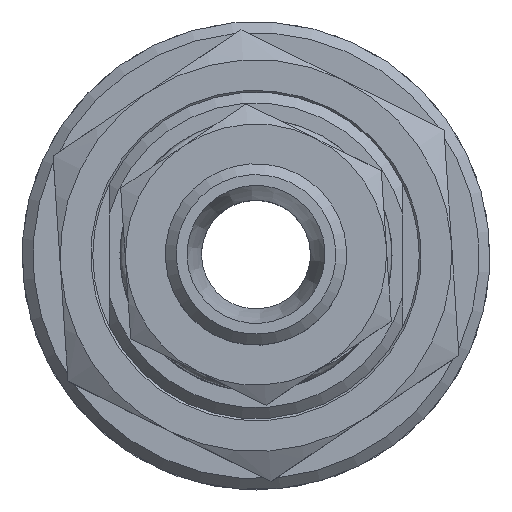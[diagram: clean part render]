
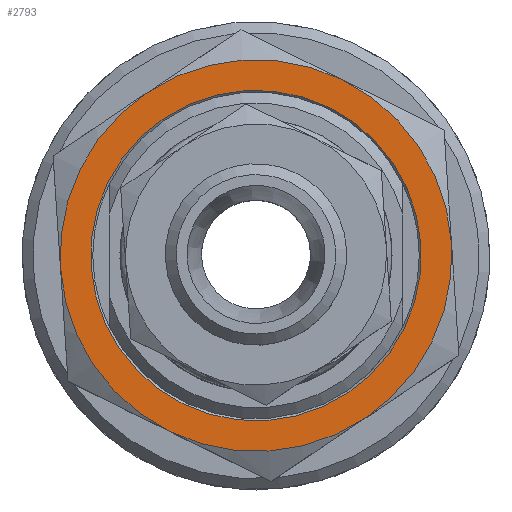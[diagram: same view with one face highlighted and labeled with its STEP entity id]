
A CAD part, top view. The second image highlights one B-rep face of the part: STEP entity #2793.
In plain terms, the highlighted planar face has unit normal (0, 0, 1).
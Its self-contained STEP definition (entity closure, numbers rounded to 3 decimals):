
#2348=CARTESIAN_POINT('',(-15.588,9.,8.0));
#2349=VERTEX_POINT('',#2348);
#2363=CARTESIAN_POINT('',(-15.588,-9.,8.0));
#2364=VERTEX_POINT('',#2363);
#2378=CARTESIAN_POINT('',(0.0,0.0,8.0));
#2379=DIRECTION('',(0.0,0.0,1.0));
#2380=DIRECTION('',(0.0,1.0,0.0));
#2381=AXIS2_PLACEMENT_3D('',#2378,#2379,#2380);
#2382=CIRCLE('',#2381,18.);
#2383=EDGE_CURVE('',#2349,#2364,#2382,.T.);
#2395=CARTESIAN_POINT('',(0.0,18.,8.0));
#2396=VERTEX_POINT('',#2395);
#2423=CARTESIAN_POINT('',(0.0,0.0,8.0));
#2424=DIRECTION('',(0.0,0.0,1.0));
#2425=DIRECTION('',(0.0,1.0,0.0));
#2426=AXIS2_PLACEMENT_3D('',#2423,#2424,#2425);
#2427=CIRCLE('',#2426,18.);
#2428=EDGE_CURVE('',#2396,#2349,#2427,.T.);
#2440=CARTESIAN_POINT('',(15.588,9.,8.0));
#2441=VERTEX_POINT('',#2440);
#2468=CARTESIAN_POINT('',(0.0,0.0,8.0));
#2469=DIRECTION('',(0.0,0.0,1.0));
#2470=DIRECTION('',(0.0,1.0,0.0));
#2471=AXIS2_PLACEMENT_3D('',#2468,#2469,#2470);
#2472=CIRCLE('',#2471,18.);
#2473=EDGE_CURVE('',#2441,#2396,#2472,.T.);
#2485=CARTESIAN_POINT('',(15.588,-9.,8.0));
#2486=VERTEX_POINT('',#2485);
#2513=CARTESIAN_POINT('',(0.0,0.0,8.0));
#2514=DIRECTION('',(0.0,0.0,1.0));
#2515=DIRECTION('',(0.0,1.0,0.0));
#2516=AXIS2_PLACEMENT_3D('',#2513,#2514,#2515);
#2517=CIRCLE('',#2516,18.);
#2518=EDGE_CURVE('',#2486,#2441,#2517,.T.);
#2543=CARTESIAN_POINT('',(0.,-18.,8.0));
#2544=VERTEX_POINT('',#2543);
#2545=CARTESIAN_POINT('',(0.0,0.0,8.0));
#2546=DIRECTION('',(0.0,0.0,1.0));
#2547=DIRECTION('',(0.0,1.0,0.0));
#2548=AXIS2_PLACEMENT_3D('',#2545,#2546,#2547);
#2549=CIRCLE('',#2548,18.);
#2550=EDGE_CURVE('',#2544,#2486,#2549,.T.);
#2588=CARTESIAN_POINT('',(0.0,0.0,8.0));
#2589=DIRECTION('',(0.0,0.0,1.0));
#2590=DIRECTION('',(0.0,1.0,0.0));
#2591=AXIS2_PLACEMENT_3D('',#2588,#2589,#2590);
#2592=CIRCLE('',#2591,18.);
#2593=EDGE_CURVE('',#2364,#2544,#2592,.T.);
#2765=CARTESIAN_POINT('',(15.188,0.,8.0));
#2766=VERTEX_POINT('',#2765);
#2767=CARTESIAN_POINT('',(0.,0.,8.0));
#2768=DIRECTION('',(0.0,0.0,1.0));
#2769=DIRECTION('',(-1.0,0.0,0.0));
#2770=AXIS2_PLACEMENT_3D('',#2767,#2768,#2769);
#2771=CIRCLE('',#2770,15.188);
#2772=EDGE_CURVE('',#2766,#2766,#2771,.T.);
#2777=CARTESIAN_POINT('',(0.,0.,8.0));
#2778=DIRECTION('',(0.0,0.0,1.0));
#2779=DIRECTION('',(1.0,0.0,0.0));
#2780=AXIS2_PLACEMENT_3D('',#2777,#2778,#2779);
#2781=PLANE('',#2780);
#2782=ORIENTED_EDGE('',*,*,#2593,.T.);
#2783=ORIENTED_EDGE('',*,*,#2550,.T.);
#2784=ORIENTED_EDGE('',*,*,#2518,.T.);
#2785=ORIENTED_EDGE('',*,*,#2473,.T.);
#2786=ORIENTED_EDGE('',*,*,#2428,.T.);
#2787=ORIENTED_EDGE('',*,*,#2383,.T.);
#2788=EDGE_LOOP('',(#2782,#2783,#2784,#2785,#2786,#2787));
#2789=FACE_OUTER_BOUND('',#2788,.T.);
#2790=ORIENTED_EDGE('',*,*,#2772,.F.);
#2791=EDGE_LOOP('',(#2790));
#2792=FACE_BOUND('',#2791,.T.);
#2793=ADVANCED_FACE('',(#2789,#2792),#2781,.T.);
